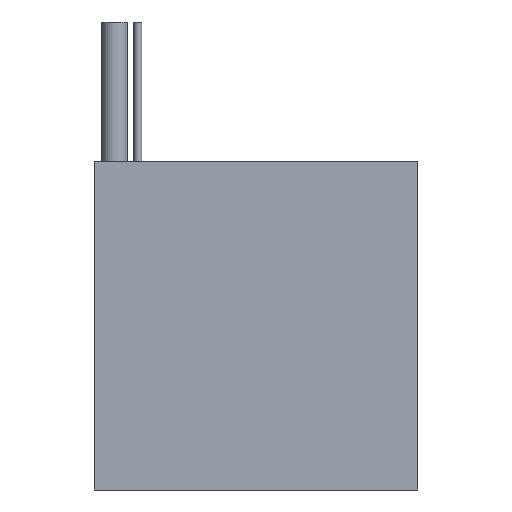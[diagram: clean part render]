
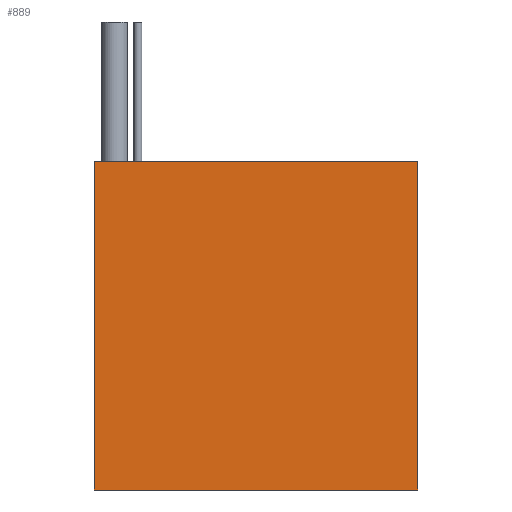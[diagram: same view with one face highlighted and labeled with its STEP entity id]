
A CAD part, front view. The second image highlights one B-rep face of the part: STEP entity #889.
In plain terms, the highlighted planar face has unit normal (0, -1, 0).
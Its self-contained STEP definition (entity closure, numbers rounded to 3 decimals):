
#25 = VERTEX_POINT ( 'NONE', #300 ) ;
#43 = EDGE_CURVE ( 'NONE', #25, #584, #1166, .T. ) ;
#107 = LINE ( 'NONE', #699, #1581 ) ;
#196 = DIRECTION ( 'NONE',  ( 0., 0., 1. ) ) ;
#233 = ORIENTED_EDGE ( 'NONE', *, *, #707, .T. ) ;
#272 = VERTEX_POINT ( 'NONE', #395 ) ;
#300 = CARTESIAN_POINT ( 'NONE',  ( -453.861, 525.584, -118. ) ) ;
#339 = VECTOR ( 'NONE', #196, 1000. ) ;
#380 = CARTESIAN_POINT ( 'NONE',  ( -453.861, 525.584, -118. ) ) ;
#395 = CARTESIAN_POINT ( 'NONE',  ( -337.861, 525.584, -118. ) ) ;
#440 = EDGE_CURVE ( 'NONE', #25, #272, #107, .T. ) ;
#444 = ORIENTED_EDGE ( 'NONE', *, *, #861, .F. ) ;
#584 = VERTEX_POINT ( 'NONE', #998 ) ;
#690 = AXIS2_PLACEMENT_3D ( 'NONE', #1328, #1331, #1197 ) ;
#699 = CARTESIAN_POINT ( 'NONE',  ( -453.861, 525.584, -118. ) ) ;
#707 = EDGE_CURVE ( 'NONE', #272, #1294, #1650, .T. ) ;
#712 = DIRECTION ( 'NONE',  ( 1., 0., 0. ) ) ;
#838 = DIRECTION ( 'NONE',  ( 0., 0., 1. ) ) ;
#861 = EDGE_CURVE ( 'NONE', #584, #1294, #1244, .T. ) ;
#889 = ADVANCED_FACE ( 'NONE', ( #1203 ), #1417, .T. ) ;
#998 = CARTESIAN_POINT ( 'NONE',  ( -453.861, 525.584, 0. ) ) ;
#1119 = ORIENTED_EDGE ( 'NONE', *, *, #43, .F. ) ;
#1166 = LINE ( 'NONE', #380, #1492 ) ;
#1196 = CARTESIAN_POINT ( 'NONE',  ( -453.861, 525.584, 0. ) ) ;
#1197 = DIRECTION ( 'NONE',  ( 0., 0., -1. ) ) ;
#1203 = FACE_OUTER_BOUND ( 'NONE', #1506, .T. ) ;
#1244 = LINE ( 'NONE', #1196, #1590 ) ;
#1245 = DIRECTION ( 'NONE',  ( 1., 0., 0. ) ) ;
#1294 = VERTEX_POINT ( 'NONE', #1500 ) ;
#1328 = CARTESIAN_POINT ( 'NONE',  ( -453.861, 525.584, -118. ) ) ;
#1331 = DIRECTION ( 'NONE',  ( 0., -1., 0. ) ) ;
#1394 = CARTESIAN_POINT ( 'NONE',  ( -337.861, 525.584, -118. ) ) ;
#1417 = PLANE ( 'NONE',  #690 ) ;
#1492 = VECTOR ( 'NONE', #838, 1000. ) ;
#1500 = CARTESIAN_POINT ( 'NONE',  ( -337.861, 525.584, 0. ) ) ;
#1506 = EDGE_LOOP ( 'NONE', ( #444, #1119, #1571, #233 ) ) ;
#1571 = ORIENTED_EDGE ( 'NONE', *, *, #440, .T. ) ;
#1581 = VECTOR ( 'NONE', #712, 1000. ) ;
#1590 = VECTOR ( 'NONE', #1245, 1000. ) ;
#1650 = LINE ( 'NONE', #1394, #339 ) ;
